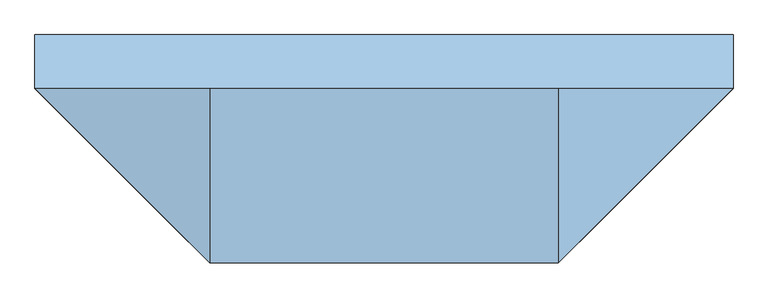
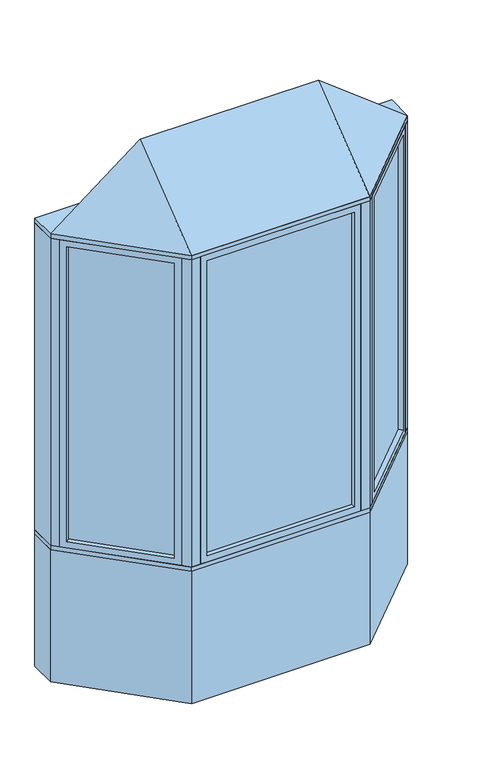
"""IFC4 building model written with IfcOpenShell, lengths in millimetres: window geometry, Pollard_Windows_Tudor Casement Bows and Bays : AML-BAY 45 AFR0518-10-600."""

from ifc_helpers import new_model, si_unit, frame, origin, origin_with_axes, place, context, project, spatial, polyline, outline, extrude, faceted_brep, source, transform, mapped, element, save


def window_eb827597(model_context):
    return source(origin(), model_context, "Body", "SolidModel", [
        extrude(outline(polyline([(924.0964271, -104.763169), (528.474814, -500.3847822), (524.8827115, -496.7926797), (920.5043247, -101.1710666), (924.0964271, -104.763169)])), frame((0.0, 0.0, 823.1628), z_axis=(0.0, 0.0, 1.0), x_axis=(1.0, 0.0, 0.0)), (0.0, 0.0, 1.0), 1753.6704),
        faceted_brep([(915.116171, -113.7434252, 835.8628), (933.0766833, -131.7039374, 835.8628), (933.0766833, -131.7039374, 2564.1332), (915.116171, -113.7434252, 2564.1332), (920.5043247, -101.1710666, 823.1628), (924.0964271, -104.763169, 823.1628), (924.0964271, -104.763169, 2576.8332), (920.5043247, -101.1710666, 2576.8332), (893.5635563, -92.1908105, 835.8628), (911.5240686, -110.1513227, 835.8628), (911.5240686, -110.1513227, 2564.1332), (893.5635563, -92.1908105, 2564.1332), (958.4369265, -106.3436941, 799.998), (918.9237996, -66.8305672, 799.998), (918.9237996, -66.8305672, 2599.998), (958.4369265, -106.3436941, 2599.998), (555.4155823, -509.3650383, 2564.1332), (537.4550701, -491.4045261, 2564.1332), (528.474814, -500.3847822, 2576.8332), (524.8827115, -496.7926797, 2576.8332), (533.8629677, -487.8124236, 2564.1332), (515.9024554, -469.8519114, 2564.1332), (490.5422121, -495.2121547, 2599.998), (530.0553391, -534.7252816, 2599.998), (555.4155823, -509.3650383, 835.8628), (537.4550701, -491.4045261, 835.8628), (528.474814, -500.3847822, 823.1628), (524.8827115, -496.7926797, 823.1628), (533.8629677, -487.8124236, 835.8628), (515.9024554, -469.8519114, 835.8628), (490.5422121, -495.2121547, 799.998), (530.0553391, -534.7252816, 799.998)], [[[0, 1, 2, 3]], [[4, 5, 6, 7]], [[8, 9, 10, 11]], [[12, 13, 14, 15]], [[3, 2, 16, 17]], [[7, 6, 18, 19]], [[11, 10, 20, 21]], [[15, 14, 22, 23]], [[17, 16, 24, 25]], [[19, 18, 26, 27]], [[21, 20, 28, 29]], [[23, 22, 30, 31]], [[25, 24, 1, 0]], [[5, 26, 18, 6], [3, 17, 25, 0]], [[27, 26, 5, 4]], [[7, 19, 27, 4], [9, 28, 20, 10]], [[29, 28, 9, 8]], [[13, 30, 22, 14], [11, 21, 29, 8]], [[31, 30, 13, 12]], [[15, 23, 31, 12], [1, 24, 16, 2]]]),
        extrude(outline(polyline([(-528.474814, -500.3847822), (-924.0964271, -104.763169), (-920.5043247, -101.1710666), (-524.8827115, -496.7926797), (-528.474814, -500.3847822)])), frame((0.0, 0.0, 823.1628), z_axis=(0.0, 0.0, 1.0), x_axis=(1.0, 0.0, 0.0)), (0.0, 0.0, 1.0), 1753.6704),
        faceted_brep([(-533.8629677, -487.8124236, 2564.1332), (-515.9024554, -469.8519114, 2564.1332), (-515.9024554, -469.8519114, 835.8628), (-533.8629677, -487.8124236, 835.8628), (-528.474814, -500.3847822, 2576.8332), (-524.8827115, -496.7926797, 2576.8332), (-524.8827115, -496.7926797, 823.1628), (-528.474814, -500.3847822, 823.1628), (-555.4155823, -509.3650383, 2564.1332), (-537.4550701, -491.4045261, 2564.1332), (-537.4550701, -491.4045261, 835.8628), (-555.4155823, -509.3650383, 835.8628), (-490.5422121, -495.2121547, 2599.998), (-530.0553391, -534.7252816, 2599.998), (-530.0553391, -534.7252816, 799.998), (-490.5422121, -495.2121547, 799.998), (-893.5635563, -92.1908105, 835.8628), (-911.5240686, -110.1513227, 835.8628), (-920.5043247, -101.1710666, 823.1628), (-924.0964271, -104.763169, 823.1628), (-915.116171, -113.7434252, 835.8628), (-933.0766833, -131.7039374, 835.8628), (-958.4369265, -106.3436941, 799.998), (-918.9237996, -66.8305672, 799.998), (-893.5635563, -92.1908105, 2564.1332), (-911.5240686, -110.1513227, 2564.1332), (-920.5043247, -101.1710666, 2576.8332), (-924.0964271, -104.763169, 2576.8332), (-915.116171, -113.7434252, 2564.1332), (-933.0766833, -131.7039374, 2564.1332), (-958.4369265, -106.3436941, 2599.998), (-918.9237996, -66.8305672, 2599.998)], [[[0, 1, 2, 3]], [[4, 5, 6, 7]], [[8, 9, 10, 11]], [[12, 13, 14, 15]], [[3, 2, 16, 17]], [[7, 6, 18, 19]], [[11, 10, 20, 21]], [[15, 14, 22, 23]], [[17, 16, 24, 25]], [[19, 18, 26, 27]], [[21, 20, 28, 29]], [[23, 22, 30, 31]], [[15, 23, 31, 12], [1, 24, 16, 2]], [[25, 24, 1, 0]], [[5, 26, 18, 6], [3, 17, 25, 0]], [[27, 26, 5, 4]], [[7, 19, 27, 4], [9, 28, 20, 10]], [[29, 28, 9, 8]], [[13, 30, 22, 14], [11, 21, 29, 8]], [[31, 30, 13, 12]]]),
        extrude(outline(polyline([(421.5352, -544.6806207), (-421.5352, -544.6806207), (-421.5352, -539.6006207), (421.5352, -539.6006207), (421.5352, -544.6806207)])), frame((0.0, 0.0, 823.1628), z_axis=(0.0, 0.0, 1.0), x_axis=(1.0, 0.0, 0.0)), (0.0, 0.0, 1.0), 1753.6704),
        faceted_brep([(408.8352, -544.6806207, 835.8628), (408.8352, -570.0806207, 835.8628), (408.8352, -570.0806207, 2564.1332), (408.8352, -544.6806207, 2564.1332), (421.5352, -539.6006207, 823.1628), (421.5352, -544.6806207, 823.1628), (421.5352, -544.6806207, 2576.8332), (421.5352, -539.6006207, 2576.8332), (408.8352, -514.2006207, 835.8628), (408.8352, -539.6006207, 835.8628), (408.8352, -539.6006207, 2564.1332), (408.8352, -514.2006207, 2564.1332), (444.7, -570.0806207, 799.998), (444.7, -514.2006207, 799.998), (444.7, -514.2006207, 2599.998), (444.7, -570.0806207, 2599.998), (-408.8352, -570.0806207, 2564.1332), (-408.8352, -544.6806207, 2564.1332), (-421.5352, -544.6806207, 2576.8332), (-421.5352, -539.6006207, 2576.8332), (-408.8352, -539.6006207, 2564.1332), (-408.8352, -514.2006207, 2564.1332), (-444.7, -514.2006207, 2599.998), (-444.7, -570.0806207, 2599.998), (-408.8352, -570.0806207, 835.8628), (-408.8352, -544.6806207, 835.8628), (-421.5352, -544.6806207, 823.1628), (-421.5352, -539.6006207, 823.1628), (-408.8352, -539.6006207, 835.8628), (-408.8352, -514.2006207, 835.8628), (-444.7, -514.2006207, 799.998), (-444.7, -570.0806207, 799.998)], [[[0, 1, 2, 3]], [[4, 5, 6, 7]], [[8, 9, 10, 11]], [[12, 13, 14, 15]], [[3, 2, 16, 17]], [[7, 6, 18, 19]], [[11, 10, 20, 21]], [[15, 14, 22, 23]], [[17, 16, 24, 25]], [[19, 18, 26, 27]], [[21, 20, 28, 29]], [[23, 22, 30, 31]], [[15, 23, 31, 12], [1, 24, 16, 2]], [[25, 24, 1, 0]], [[5, 26, 18, 6], [3, 17, 25, 0]], [[27, 26, 5, 4]], [[7, 19, 27, 4], [9, 28, 20, 10]], [[29, 28, 9, 8]], [[13, 30, 22, 14], [11, 21, 29, 8]], [[31, 30, 13, 12]]]),
        faceted_brep([(990.0, -74.7806207, 2625.398), (494.7, -570.0806207, 2625.398), (-494.7, -570.0806207, 2625.398), (-990.0, -74.7806207, 2625.398), (-494.7, -74.7806207, 3006.398), (494.7, -74.7806207, 3006.398)], [[[0, 1, 2, 3]], [[3, 2, 4]], [[2, 1, 5, 4]], [[1, 0, 5]], [[0, 3, 4, 5]]]),
        extrude(outline(polyline([(-990.0, 77.6193793), (990.0, 77.6193793), (990.0, -74.7806207), (494.7, -570.0806207), (-494.7, -570.0806207), (-990.0, -74.7806207), (-990.0, 77.6193793)])), frame((0.0, 0.0, 2599.998), z_axis=(0.0, 0.0, 1.0), x_axis=(1.0, 0.0, 0.0)), (0.0, 0.0, 1.0), 25.4),
        extrude(outline(polyline([(-990.0, -74.7806207), (-990.0, 77.6193793), (-926.8738531, 77.6193793), (-926.8738531, -74.7806207), (-958.4369265, -106.3436941), (-990.0, -74.7806207)])), frame((0.0, 0.0, 799.998), z_axis=(0.0, 0.0, 1.0), x_axis=(1.0, 0.0, 0.0)), (0.0, 0.0, 1.0), 1800.0),
        extrude(outline(polyline([(990.0, 77.6193793), (990.0, -74.7806207), (958.4369265, -106.3436941), (926.8738531, -74.7806207), (926.8738531, 77.6193793), (990.0, 77.6193793)])), frame((0.0, 0.0, 799.998), z_axis=(0.0, 0.0, 1.0), x_axis=(1.0, 0.0, 0.0)), (0.0, 0.0, 1.0), 1800.0),
        extrude(outline(polyline([(494.7, -570.0806207), (444.7, -570.0806207), (444.7, -520.0806207), (473.9893219, -520.0806207), (494.7, -499.3699425), (530.0553391, -534.7252816), (494.7, -570.0806207)])), frame((0.0, 0.0, 799.998), z_axis=(0.0, 0.0, 1.0), x_axis=(1.0, 0.0, 0.0)), (0.0, 0.0, 1.0), 1800.0),
        extrude(outline(polyline([(-494.7, -570.0806207), (-530.0553391, -534.7252816), (-494.7, -499.3699425), (-473.9893219, -520.0806207), (-444.7, -520.0806207), (-444.7, -570.0806207), (-494.7, -570.0806207)])), frame((0.0, 0.0, 799.998), z_axis=(0.0, 0.0, 1.0), x_axis=(1.0, 0.0, 0.0)), (0.0, 0.0, 1.0), 1800.0),
        extrude(outline(polyline([(-494.7, -570.0806207), (-990.0, -74.7806207), (-990.0, 77.6193793), (-926.8738531, 77.6193793), (-431.5738531, -417.6806207), (431.5738531, -417.6806207), (926.8738531, 77.6193793), (990.0, 77.6193793), (990.0, -74.7806207), (494.7, -570.0806207), (-494.7, -570.0806207)])), frame((0.0, 0.0, 774.598), z_axis=(0.0, 0.0, 1.0), x_axis=(1.0, 0.0, 0.0)), (0.0, 0.0, 1.0), 25.4),
        extrude(outline(polyline([(-990.0, -74.7806207), (-990.0, 77.6193793), (-926.8738531, 77.6193793), (-431.5738531, -417.6806207), (431.5738531, -417.6806207), (926.8738531, 77.6193793), (990.0, 77.6193793), (990.0, -74.7806207), (494.7, -570.0806207), (-494.7, -570.0806207), (-990.0, -74.7806207)])), origin_with_axes(), (0.0, 0.0, 1.0), 774.598),
    ])


if __name__ == "__main__":
    model = new_model("IFC4")
    model_context = context("Model", 3, world=origin())
    ifc_project = project(units=[si_unit("LENGTHUNIT", "METRE", prefix="MILLI")], contexts=[model_context])
    site = spatial("IfcSite", under=ifc_project)
    building = spatial("IfcBuilding", under=site)
    placement = place(None, origin())
    window_shape = window_eb827597(model_context)
    element("IfcWindow", 1, ObjectType="Pollard_Windows_Tudor Casement Bows and Bays : AML-BAY 45 AFR0518-10-600", at=placement, inside=building, context=model_context, shape_type="MappedRepresentation", body=[
        mapped(window_shape, transform((0.0, 0.0, 0.0), x_axis=(1.0, 0.0, 0.0), y_axis=(0.0, 1.0, 0.0), z_axis=(0.0, 0.0, 1.0))),
    ])
    save(model, "model.ifc")
